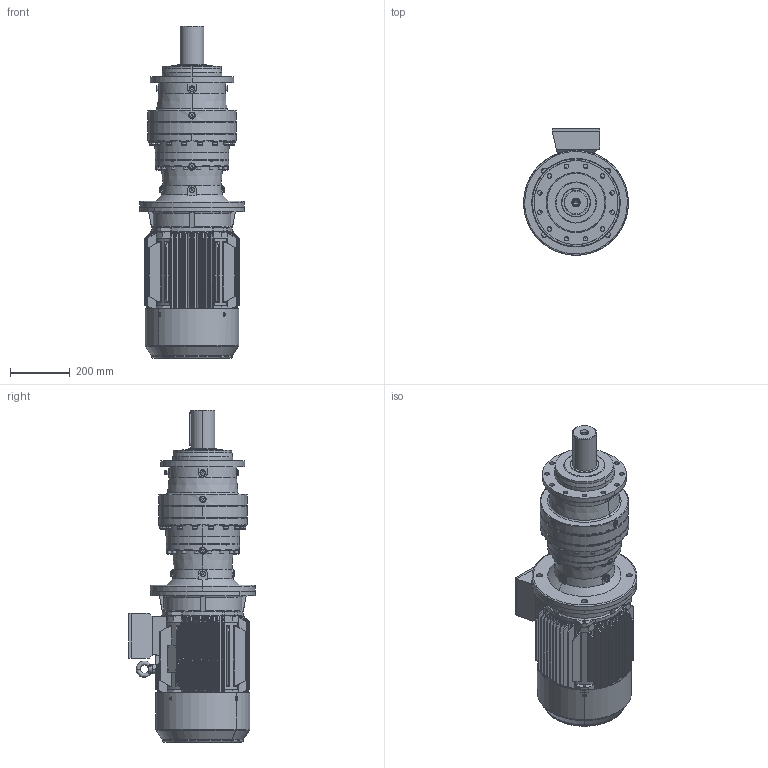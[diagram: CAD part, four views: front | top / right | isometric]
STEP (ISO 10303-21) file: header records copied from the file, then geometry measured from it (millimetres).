
FILE_DESCRIPTION (( 'STEP AP203' ), '1' );
FILE_NAME ('PVL-1902L-HS160M-4.STEP', '2019-05-27T08:15:13', ( '' ), ( '' ), 'SwSTEP 2.0', 'SolidWorks 2012', '' );
FILE_SCHEMA (( 'CONFIG_CONTROL_DESIGN' ));
Products named in the file (18): PVL-1902L-HS160M-4; M3-HS160M-FF-B5; Y2-160M+À+¿(B5)_-++ñ; M3-160M-FF-B5; Y2-160_shaft; Y2-160-2ª¥--®+_-++ñ; Y2-160ñ»ª­+¿_-++ñ; +ª+§ªiY2-160ñ»ª­_-++ñ; Y2-160-180ñ»ª­®+_-++ñ; +¦i-MN2-160_-++ñ; Eyebolts GB_GB_FASTENER_SCREWS_FRS M12; Y2-160-4Ý¾6Ý¾8-ª+---®+_-++ñ; PNL_1902L_0_0_A16_B5_ML25A_FL5A_0_0_0_0_0_0_0_0_0_0_0_M1; EK1902L_Varsayìlan; FL5A_Varsayìlan; ML25A_Varsayìlan; 15160B5_Varsayìlan; P19_Varsayìlan
Assembly tree (17 placements, depth 5):
  PVL-1902L-HS160M-4
    PNL_1902L_0_0_A16_B5_ML25A_FL5A_0_0_0_0_0_0_0_0_0_0_0_M1
      P19_Varsayìlan
      15160B5_Varsayìlan
      ML25A_Varsayìlan
      EK1902L_Varsayìlan
      FL5A_Varsayìlan
    M3-HS160M-FF-B5
      M3-160M-FF-B5
        Eyebolts GB_GB_FASTENER_SCREWS_FRS M12
        Y2-160-4Ý¾6Ý¾8-ª+---®+_-++ñ
        +¦i-MN2-160_-++ñ
        Y2-160-2ª¥--®+_-++ñ
        +ª+§ªiY2-160ñ»ª­_-++ñ
          Y2-160-180ñ»ª­®+_-++ñ
          Y2-160ñ»ª­+¿_-++ñ
        Y2-160M+À+¿(B5)_-++ñ
        Y2-160_shaft
Bounding box: 350 x 422 x 1107.5 mm (x, y, z)
Volume: 30679709.6 mm3; surface area: 3408189.4 mm2
Topology: 17 solids, 17 shells, 3010 faces, 8062 edges, 5149 vertices
Faces by surface type: plane 1264, cylinder 1122, bspline 298, cone 223, torus 63, sphere 40
Entity records: 136584 total; most frequent: CARTESIAN_POINT 62562, ORIENTED_EDGE 15900, DIRECTION 14050, EDGE_CURVE 7950, AXIS2_PLACEMENT_3D 5291, VERTEX_POINT 5134, VECTOR 3468, LINE 3468
